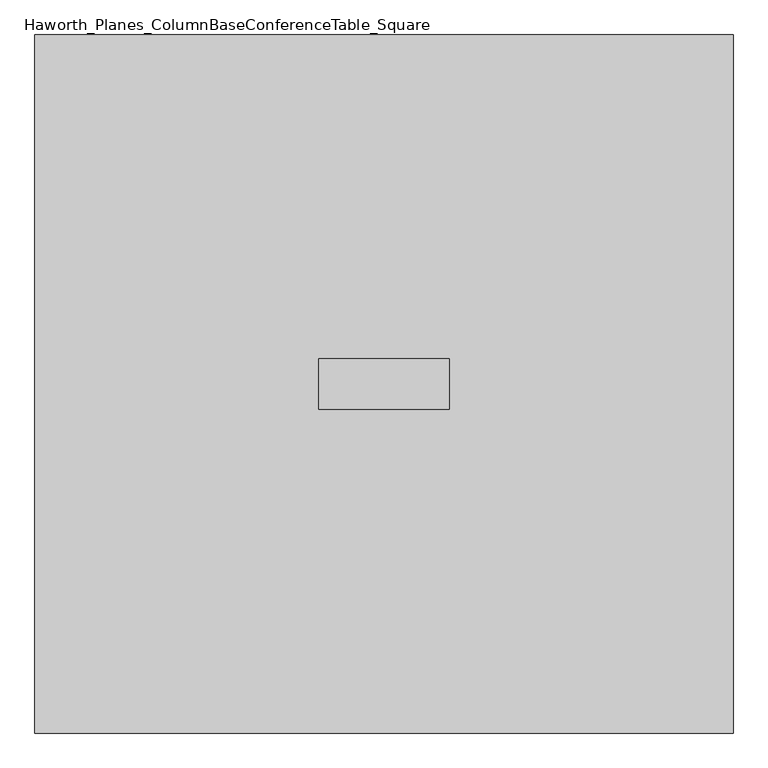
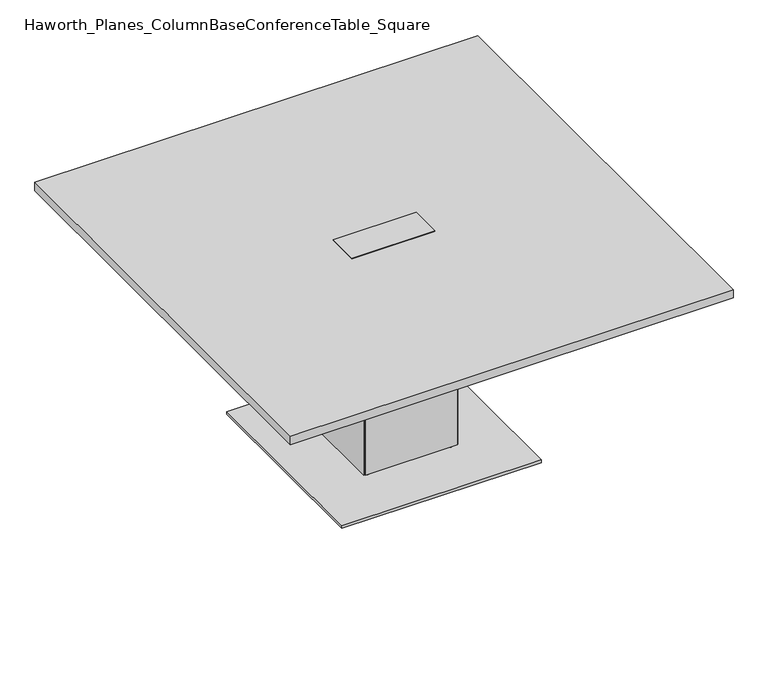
"""IFC4 building model written with IfcOpenShell, lengths in millimetres: furniture geometry, Haworth_Planes_ColumnBaseConferenceTable_Square : 60d 60w 29h."""

import ifcopenshell
import ifcopenshell.guid

model = None  # the IFC model being written
_history = None  # IfcOwnerHistory: only IFC2X3 demands one
_inside = {}  # id of a spatial element -> (the spatial element, [elements in it])
_under = {}  # id of a project, library or spatial element -> (it, [spatial elements below it])
_declared = {}  # id of a project -> (the project, [libraries it declares])
_typed = {}  # id of a type object -> (the type object, [elements of that type])
_made_of = {}  # id of a material, layer set ... -> (it, [elements and type objects made of it])


def new_model(schema):
    """Start an empty IFC model of exactly this schema.

    Asked for "IFC4X3", IfcOpenShell would pick the latest addendum, in which some entities
    have other attributes; the version numbers below select the first issue.
    IFC2X3 requires an IfcOwnerHistory on every rooted entity: one is made here for all.
    """
    global model, _history
    if schema == "IFC4X3":
        model = ifcopenshell.file(schema_version=(4, 3, 0, 0))
    else:
        model = ifcopenshell.file(schema=schema)
    _inside.clear()
    _under.clear()
    _declared.clear()
    _typed.clear()
    _made_of.clear()
    _history = None
    if model.schema == "IFC2X3":
        org = make("IfcOrganization", Name="unknown")
        user = make(
            "IfcPersonAndOrganization",
            ThePerson=make("IfcPerson", FamilyName="unknown"),
            TheOrganization=org,
        )
        app = make(
            "IfcApplication",
            ApplicationDeveloper=org,
            Version="unknown",
            ApplicationFullName="unknown",
            ApplicationIdentifier="unknown",
        )
        _history = make(
            "IfcOwnerHistory",
            OwningUser=user,
            OwningApplication=app,
            ChangeAction="ADDED",
            CreationDate=0,
        )
    return model


def make(cls, **values):
    """One entity of the class cls with the attributes given. An attribute that is None is left unset."""
    return model.create_entity(
        cls, **{name: value for name, value in values.items() if value is not None}
    )


def rooted(cls, **values):
    """An entity with a GlobalId (a new one), such as an element, a storey or a relation."""
    return make(cls, GlobalId=ifcopenshell.guid.new(), OwnerHistory=_history, **values)


def si_unit(unit_type, name, prefix=None):
    """IfcSIUnit, for example si_unit("LENGTHUNIT", "METRE", prefix="MILLI")."""
    return make("IfcSIUnit", UnitType=unit_type, Prefix=prefix, Name=name)


def assignment(units):
    """IfcUnitAssignment: the units of a project."""
    return None if units is None else make("IfcUnitAssignment", Units=units)


def point(xyz):
    """IfcCartesianPoint."""
    return None if xyz is None else make("IfcCartesianPoint", Coordinates=xyz)


def direction(xyz):
    """IfcDirection."""
    return None if xyz is None else make("IfcDirection", DirectionRatios=xyz)


def frame(location, z_axis=None, x_axis=None):
    """IfcAxis2Placement3D, a coordinate frame: its origin and axes. An axis left out is left unset."""
    return make(
        "IfcAxis2Placement3D",
        Location=point(location),
        Axis=direction(z_axis),
        RefDirection=direction(x_axis),
    )


def frame_2d(location, x_axis=None):
    """IfcAxis2Placement2D, a coordinate frame in the plane: its origin and x axis."""
    return make(
        "IfcAxis2Placement2D", Location=point(location), RefDirection=direction(x_axis)
    )


def origin():
    """The frame at (0, 0, 0) with its axes left unset."""
    return frame((0.0, 0.0, 0.0))


def origin_with_axes():
    """The frame at (0, 0, 0) with the z axis (0, 0, 1) and the x axis (1, 0, 0) written out."""
    return frame((0.0, 0.0, 0.0), z_axis=(0.0, 0.0, 1.0), x_axis=(1.0, 0.0, 0.0))


def place(relative_to, where):
    """IfcLocalPlacement: puts the frame where relative to a parent placement (None: the world)."""
    return make(
        "IfcLocalPlacement", PlacementRelTo=relative_to, RelativePlacement=where
    )


def context(
    kind, dimensions, precision=None, world=None, true_north=None, identifier=None
):
    """IfcGeometricRepresentationContext, for example the 3D "Model" context."""
    return make(
        "IfcGeometricRepresentationContext",
        ContextIdentifier=identifier,
        ContextType=kind,
        CoordinateSpaceDimension=dimensions,
        Precision=precision,
        WorldCoordinateSystem=world,
        TrueNorth=true_north,
    )


def project(units=None, contexts=None):
    """IfcProject with its units and contexts."""
    return rooted(
        "IfcProject",
        Name="project",
        RepresentationContexts=contexts,
        UnitsInContext=assignment(units),
    )


def spatial(cls, under=None, at=None, **own):
    """A site, building, storey or space (cls), placed at a placement, below another one or the project."""
    s = rooted(cls, ObjectPlacement=at, **own)
    if under is not None:
        _under.setdefault(under.id(), (under, []))[1].append(s)
    return s


def polyline(points):
    """IfcPolyline through the points."""
    return make("IfcPolyline", Points=[point(p) for p in points])


def circle_curve(where, radius):
    """IfcCircle in the frame where."""
    return make("IfcCircle", Position=where, Radius=radius)


def trimmed(basis, trim1, trim2, sense, master):
    """IfcTrimmedCurve: the piece of a basis curve between two trims."""
    return make(
        "IfcTrimmedCurve",
        BasisCurve=basis,
        Trim1=trim1,
        Trim2=trim2,
        SenseAgreement=sense,
        MasterRepresentation=master,
    )


def segment(curve, same_sense, transition):
    """IfcCompositeCurveSegment."""
    return make(
        "IfcCompositeCurveSegment",
        Transition=transition,
        SameSense=same_sense,
        ParentCurve=curve,
    )


def composite_curve(segments, self_intersect=None):
    """IfcCompositeCurve: segments joined end to end."""
    return make("IfcCompositeCurve", Segments=segments, SelfIntersect=self_intersect)


def outline(outer, holes=None, kind="AREA"):
    """IfcArbitraryClosedProfileDef: a profile drawn as a closed curve; with holes, ...WithVoids."""
    if holes is None:
        return make("IfcArbitraryClosedProfileDef", ProfileType=kind, OuterCurve=outer)
    return make(
        "IfcArbitraryProfileDefWithVoids",
        ProfileType=kind,
        OuterCurve=outer,
        InnerCurves=holes,
    )


def extrude(swept, where, along, depth):
    """IfcExtrudedAreaSolid: the profile swept, set in the frame where, extruded along a direction by depth."""
    return make(
        "IfcExtrudedAreaSolid",
        SweptArea=swept,
        Position=where,
        ExtrudedDirection=direction(along),
        Depth=depth,
    )


def faces_of(points, faces, orient=None, outer=None):
    """IfcFace entities. A face is a list of loops; a loop is a list of indices into points, from 0.

    orient and outer hold one flag for each loop. By default every Orientation is true, the
    first loop of a face is its IfcFaceOuterBound and the others are IfcFaceBound.
    """
    made = []
    for i, loops in enumerate(faces):
        bounds = []
        for j, loop in enumerate(loops):
            is_outer = j == 0 if outer is None else outer[i][j]
            bounds.append(
                make(
                    "IfcFaceOuterBound" if is_outer else "IfcFaceBound",
                    Bound=make("IfcPolyLoop", Polygon=[points[k] for k in loop]),
                    Orientation=True if orient is None else orient[i][j],
                )
            )
        made.append(make("IfcFace", Bounds=bounds))
    return made


def faceted_brep(points, faces, orient=None, outer=None, voids=None):
    """IfcFacetedBrep: a solid bounded by flat faces; with voids (closed shells), ...WithVoids."""
    shared = [point(p) for p in points]
    hull = make("IfcClosedShell", CfsFaces=faces_of(shared, faces, orient, outer))
    if voids is None:
        return make("IfcFacetedBrep", Outer=hull)
    return make(
        "IfcFacetedBrepWithVoids",
        Outer=hull,
        Voids=[
            make(cls, CfsFaces=faces_of(shared, fs, o, b)) for cls, fs, o, b in voids
        ],
    )


def shape(context_of_items, identifier, shape_type, items):
    """IfcShapeRepresentation: the items that make up one representation, for example the "Body"."""
    return make(
        "IfcShapeRepresentation",
        ContextOfItems=context_of_items,
        RepresentationIdentifier=identifier,
        RepresentationType=shape_type,
        Items=items,
    )


def source(mapping_origin, context_of_items, identifier, shape_type, items):
    """IfcRepresentationMap: a shape defined once, which mapped items show again and again."""
    return make(
        "IfcRepresentationMap",
        MappingOrigin=mapping_origin,
        MappedRepresentation=shape(context_of_items, identifier, shape_type, items),
    )


def transform(
    local_origin,
    x_axis=None,
    y_axis=None,
    z_axis=None,
    scale=None,
    scale2=None,
    scale3=None,
    uniform=True,
):
    """IfcCartesianTransformationOperator3D, or its non-uniform kind. x_axis, y_axis, z_axis: its Axis1, 2, 3."""
    if uniform:
        return make(
            "IfcCartesianTransformationOperator3D",
            Axis1=direction(x_axis),
            Axis2=direction(y_axis),
            LocalOrigin=point(local_origin),
            Scale=scale,
            Axis3=direction(z_axis),
        )
    return make(
        "IfcCartesianTransformationOperator3DnonUniform",
        Axis1=direction(x_axis),
        Axis2=direction(y_axis),
        LocalOrigin=point(local_origin),
        Scale=scale,
        Axis3=direction(z_axis),
        Scale2=scale2,
        Scale3=scale3,
    )


def mapped(mapping_source, mapping_target):
    """IfcMappedItem: shows the shape of a source again, moved by a transform."""
    return make(
        "IfcMappedItem", MappingSource=mapping_source, MappingTarget=mapping_target
    )


def made_of(thing, what):
    """Note that an element or type object is made of a material, layer set ...; save() writes the relation."""
    if what is not None:
        _made_of.setdefault(what.id(), (what, []))[1].append(thing)
    return thing


def element(
    cls,
    number,
    at=None,
    inside=None,
    cuts=None,
    type_object=None,
    material=None,
    context=None,
    identifier="Body",
    shape_type=None,
    held_by="IfcProductDefinitionShape",
    body=None,
    shapes=None,
    **own,
):
    """One element of the class cls, such as IfcWall. Its Tag is "e" and its number.

    at: its placement. inside: the storey or other place that contains it. cuts: it is an
    opening in that element (IfcRelVoidsElement). A single representation is given by context,
    identifier, shape_type and body (its items); several are given by shapes. held_by: the class
    of the entity that holds the representations. save() writes the other relations.
    """
    e = rooted(cls, Tag="e%d" % number, ObjectPlacement=at, **own)
    if body is not None:
        shapes = [shape(context, identifier, shape_type, body)]
    if shapes is not None:
        e.Representation = make(held_by, Representations=shapes)
    if inside is not None:
        _inside.setdefault(inside.id(), (inside, []))[1].append(e)
    if cuts is not None:
        rooted(
            "IfcRelVoidsElement", RelatingBuildingElement=cuts, RelatedOpeningElement=e
        )
    if type_object is not None:
        _typed.setdefault(type_object.id(), (type_object, []))[1].append(e)
    return made_of(e, material)


def aggregate(whole, parts):
    """IfcRelAggregates: a whole, such as a stair, and the parts it consists of."""
    return rooted("IfcRelAggregates", RelatingObject=whole, RelatedObjects=parts)


def save(model, path):
    """Write the relations noted so far, then the file.

    IfcRelAggregates (storeys below a building ...), IfcRelContainedInSpatialStructure (elements
    in a storey), IfcRelDefinesByType, IfcRelAssociatesMaterial and IfcRelDeclares: one each for
    every whole, place, type object, material and project.
    """
    for whole, parts in _under.values():
        aggregate(whole, parts)
    for where, things in _inside.values():
        rooted(
            "IfcRelContainedInSpatialStructure",
            RelatedElements=things,
            RelatingStructure=where,
        )
    for kind, things in _typed.values():
        rooted("IfcRelDefinesByType", RelatedObjects=things, RelatingType=kind)
    for what, things in _made_of.values():
        rooted("IfcRelAssociatesMaterial", RelatedObjects=things, RelatingMaterial=what)
    for by, libraries in _declared.values():
        rooted("IfcRelDeclares", RelatingContext=by, RelatedDefinitions=libraries)
    model.write(path)


def haworth_planes_columnbaseconferencetable_square_e0cd7c03(model_context):
    return source(origin(), model_context, "Body", "SolidModel", [
        extrude(outline(polyline([(381.0, 757.9700592), (381.0, -766.0299408), (-1143.0, -766.0299408), (-1143.0, 757.9700592), (381.0, 757.9700592)]), holes=[polyline([(-241.3, 46.7700592), (-520.7, 46.7700592), (-520.7, -54.8299408), (-241.3, -54.8299408), (-241.3, 46.7700592)])]), frame((0.0, 0.0, 706.4375), z_axis=(0.0, 0.0, 1.0), x_axis=(1.0, 0.0, 0.0)), (0.0, 0.0, 1.0), 30.1625),
        faceted_brep([(-238.125, 51.5325592, 739.775), (-523.875, 51.5325592, 739.775), (-523.875, -59.5924408, 739.775), (-238.125, -59.5924408, 739.775), (-238.125, 51.5325592, 736.6), (-238.125, -59.5924408, 736.6), (-523.875, -59.5924408, 736.6), (-523.875, 51.5325592, 736.6), (-241.3, 46.7700592, 736.6), (-520.7, 46.7700592, 736.6), (-520.7, -54.8299408, 736.6), (-241.3, -54.8299408, 736.6), (-241.3, 46.7700592, 666.75), (-241.3, -54.8299408, 666.75), (-520.7, -54.8299408, 666.75), (-520.7, 46.7700592, 666.75)], [[[0, 1, 2, 3]], [[4, 5, 6, 7], [8, 9, 10, 11]], [[1, 0, 4, 7]], [[2, 1, 7, 6]], [[3, 2, 6, 5]], [[0, 3, 5, 4]], [[12, 13, 14, 15]], [[12, 15, 9, 8]], [[15, 14, 10, 9]], [[14, 13, 11, 10]], [[13, 12, 8, 11]]]),
        extrude(outline(polyline([(-38.1, 338.8700592), (-38.1, -346.9299408), (-723.9, -346.9299408), (-723.9, 338.8700592), (-38.1, 338.8700592)])), origin_with_axes(), (0.0, 0.0, 1.0), 9.525),
        extrude(outline(composite_curve([segment(trimmed(circle_curve(frame_2d((-523.875, 138.8450592)), 9.525), [point((-533.4, 138.8450592))], [point((-514.35, 138.8450592))], False, "CARTESIAN"), True, "CONTINUOUS"), segment(trimmed(circle_curve(frame_2d((-523.875, 138.8450592)), 9.525), [point((-514.35, 138.8450592))], [point((-533.4, 138.8450592))], False, "CARTESIAN"), True, "CONTINUOUS")], self_intersect=False)), frame((0.0, 0.0, 9.525), z_axis=(0.0, 0.0, 1.0), x_axis=(1.0, 0.0, 0.0)), (0.0, 0.0, 1.0), 696.9125),
        extrude(outline(composite_curve([segment(trimmed(circle_curve(frame_2d((-238.125, 138.8450592)), 9.525), [point((-247.65, 138.8450592))], [point((-228.6, 138.8450592))], False, "CARTESIAN"), True, "CONTINUOUS"), segment(trimmed(circle_curve(frame_2d((-238.125, 138.8450592)), 9.525), [point((-228.6, 138.8450592))], [point((-247.65, 138.8450592))], False, "CARTESIAN"), True, "CONTINUOUS")], self_intersect=False)), frame((0.0, 0.0, 9.525), z_axis=(0.0, 0.0, 1.0), x_axis=(1.0, 0.0, 0.0)), (0.0, 0.0, 1.0), 696.9125),
        extrude(outline(composite_curve([segment(trimmed(circle_curve(frame_2d((-238.125, -146.9049408)), 9.525), [point((-247.65, -146.9049408))], [point((-228.6, -146.9049408))], False, "CARTESIAN"), True, "CONTINUOUS"), segment(trimmed(circle_curve(frame_2d((-238.125, -146.9049408)), 9.525), [point((-228.6, -146.9049408))], [point((-247.65, -146.9049408))], False, "CARTESIAN"), True, "CONTINUOUS")], self_intersect=False)), frame((0.0, 0.0, 9.525), z_axis=(0.0, 0.0, 1.0), x_axis=(1.0, 0.0, 0.0)), (0.0, 0.0, 1.0), 696.9125),
        extrude(outline(composite_curve([segment(trimmed(circle_curve(frame_2d((-523.875, -146.9049408)), 9.525), [point((-533.4, -146.9049408))], [point((-514.35, -146.9049408))], False, "CARTESIAN"), True, "CONTINUOUS"), segment(trimmed(circle_curve(frame_2d((-523.875, -146.9049408)), 9.525), [point((-514.35, -146.9049408))], [point((-533.4, -146.9049408))], False, "CARTESIAN"), True, "CONTINUOUS")], self_intersect=False)), frame((0.0, 0.0, 9.525), z_axis=(0.0, 0.0, 1.0), x_axis=(1.0, 0.0, 0.0)), (0.0, 0.0, 1.0), 696.9125),
        extrude(outline(polyline([(-222.25, -162.7799408), (-222.25, -165.9549408), (-539.75, -165.9549408), (-539.75, -162.7799408), (-222.25, -162.7799408)])), frame((0.0, 0.0, 19.05), z_axis=(0.0, 0.0, 1.0), x_axis=(1.0, 0.0, 0.0)), (0.0, 0.0, 1.0), 649.2875),
        extrude(outline(polyline([(-219.075, 154.7200592), (-219.075, -162.7799408), (-222.25, -162.7799408), (-222.25, 154.7200592), (-219.075, 154.7200592)])), frame((0.0, 0.0, 19.05), z_axis=(0.0, 0.0, 1.0), x_axis=(1.0, 0.0, 0.0)), (0.0, 0.0, 1.0), 649.2875),
        extrude(outline(polyline([(-222.25, 157.8950592), (-222.25, 154.7200592), (-539.75, 154.7200592), (-539.75, 157.8950592), (-222.25, 157.8950592)])), frame((0.0, 0.0, 19.05), z_axis=(0.0, 0.0, 1.0), x_axis=(1.0, 0.0, 0.0)), (0.0, 0.0, 1.0), 649.2875),
        extrude(outline(polyline([(-539.75, 154.7200592), (-539.75, -162.7799408), (-542.925, -162.7799408), (-542.925, 154.7200592), (-539.75, 154.7200592)])), frame((0.0, 0.0, 19.05), z_axis=(0.0, 0.0, 1.0), x_axis=(1.0, 0.0, 0.0)), (0.0, 0.0, 1.0), 649.2875),
    ])


if __name__ == "__main__":
    model = new_model("IFC4")
    model_context = context("Model", 3, world=origin())
    ifc_project = project(units=[si_unit("LENGTHUNIT", "METRE", prefix="MILLI")], contexts=[model_context])
    site = spatial("IfcSite", under=ifc_project)
    building = spatial("IfcBuilding", under=site)
    placement = place(None, origin())
    haworth_planes_columnbaseconferencetable_square_shape = haworth_planes_columnbaseconferencetable_square_e0cd7c03(model_context)
    element("IfcFurniture", 1, ObjectType="Haworth_Planes_ColumnBaseConferenceTable_Square : 60d 60w 29h", at=placement, inside=building, context=model_context, shape_type="MappedRepresentation", body=[
        mapped(haworth_planes_columnbaseconferencetable_square_shape, transform((0.0, 0.0, 0.0), x_axis=(1.0, 0.0, 0.0), y_axis=(0.0, 1.0, 0.0), z_axis=(0.0, 0.0, 1.0))),
    ])
    save(model, "model.ifc")
